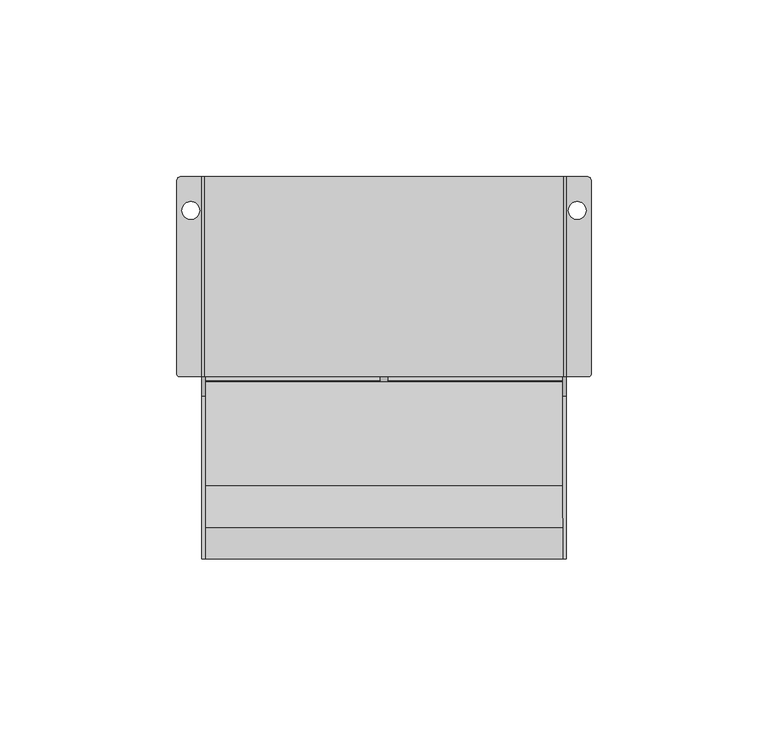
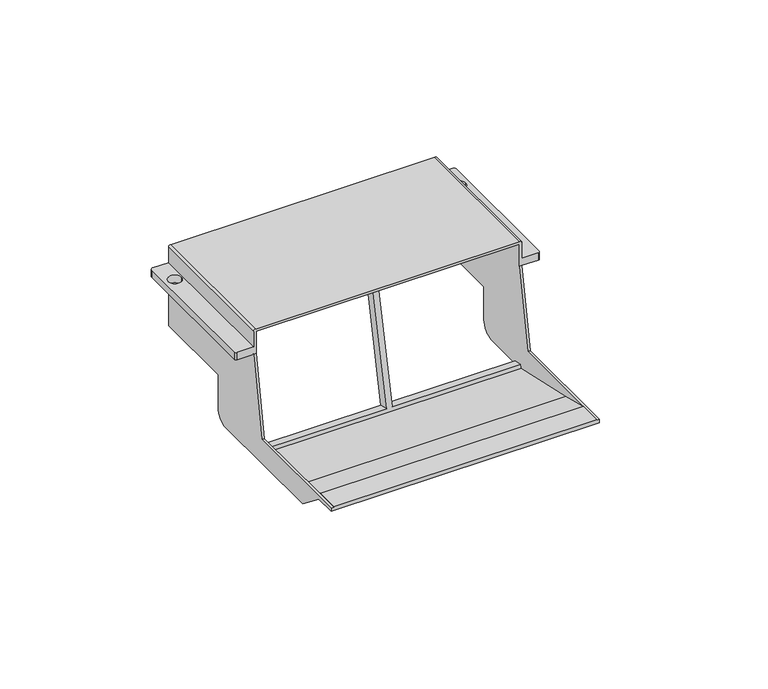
"""IFC4 building model written with IfcOpenShell, lengths in millimetres: proxy geometry, Electrical_Installation_Hager_VE-EE_Device-casing-for-data-systems-technology-for-hinged-cover : Dev. cas. for KDQ08/E04 f 2 Inst.dev. R 50."""

from ifc_helpers import new_model, si_unit, frame, origin, place, context, project, spatial, polyline, circle_curve, source, transform, mapped, element, save
from ifc_brep_helpers import plane_surface, cylinder_surface, revolved_surface, advanced_brep


def electrical_fixtures_d6e92de2(model_context):
    return source(origin(), model_context, "Body", "AdvancedBrep", [
        advanced_brep(
        [(-51.5, -3.5384615, 18.4167587), (-51.5, -3.5384615, 5.0), (-51.5, -8.5384615, 0.0), (-51.5, -59.5788701, 0.0), (-51.5, -70.458374, 8.5), (-51.5, -78.5384615, 8.5), (-51.5, -78.5384615, 9.8), (-51.5, -32.5398633, 9.8), (-51.5, -27.0384615, 41.0), (-51.5, 29.4615385, 41.0), (-51.5, 29.4615385, 18.4167587), (-51.5, -27.0384615, 50.2664242), (-51.5, 29.4615385, 50.2664242), (-51.5, 29.4615385, 44.0), (-51.5, -27.0384615, 44.0), (-50.5, -27.0384615, 41.0), (-50.5, -32.5398633, 9.8), (-50.5, -68.8627744, 9.8), (-50.5, -57.7784741, 6.8299707), (-50.5, -28.4340461, 0.59262), (-50.5, -28.1533653, 1.9131192), (-50.5, -24.2407749, 1.0814725), (-50.5, -24.470649, 0.0), (-50.5, -8.5384615, 0.0), (-50.5, -3.5384615, 5.0), (-50.5, -3.5384615, 18.4167587), (-50.5, 29.4615385, 18.4167587), (-50.5, 29.4615385, 50.0), (-50.5, -13.8428209, 50.0), (-50.5, -14.4065519, 47.347854), (-50.5, -18.3191423, 48.1795007), (-50.5, -17.9321833, 50.0), (-50.5, -27.0384615, 50.0), (-50.5, -70.458374, 8.5), (-50.5, -68.5384615, 7.0), (-50.5, -68.5384615, 8.5), (-50.5, -59.5788701, 0.0), (-50.5, -35.6060508, 0.0), (-50.5, -78.5384615, 9.8), (51.5, -78.5384615, 8.5), (51.5, -78.5384615, 9.8), (50.5, -78.5384615, 9.8), (50.5, -78.5384615, 10.0), (-50.5, -78.5384615, 10.0), (50.5, -68.5384615, 8.5), (50.5, -70.458374, 8.5), (51.5, -70.458374, 8.5), (50.5, -24.470649, 0.0), (50.5, -8.5384615, 0.0), (51.5, -8.5384615, 0.0), (51.5, -59.5788701, 0.0), (50.5, -59.5788701, 0.0), (50.5, -35.6060508, 0.0), (-50.7664242, -27.0384615, 51.0), (-57.8228614, -27.0384615, 44.0), (-57.8228614, -27.0384615, 41.0), (50.5, -27.0384615, 50.0), (50.5, -27.0384615, 41.0), (51.5, -27.0384615, 41.0), (57.8228614, -27.0384615, 41.0), (57.8228614, -27.0384615, 44.0), (51.5, -27.0384615, 44.0), (51.5, -27.0384615, 50.224034), (50.724034, -27.0384615, 51.0), (-50.7664242, 29.4615385, 51.0), (50.724034, 29.4615385, 51.0), (51.5, 29.4615385, 50.224034), (51.5, 29.4615385, 44.0), (57.5290949, 29.4615385, 44.0), (57.5290949, 29.4615385, 41.0), (51.5, 29.4615385, 41.0), (51.5, 29.4615385, 18.4167587), (50.5, 29.4615385, 18.4167587), (50.5, 29.4615385, 50.0), (-57.5290949, 29.4615385, 41.0), (-57.5290949, 29.4615385, 44.0), (51.5, -32.5398633, 9.8), (51.5, -3.5384615, 5.0), (51.5, -3.5384615, 18.4167587), (50.5, -17.9321833, 50.0), (50.5, -13.8428209, 50.0), (50.5, -68.5384615, 7.0), (50.5, -3.5384615, 18.4167587), (50.5, -3.5384615, 5.0), (50.5, -24.2407749, 1.0814725), (50.5, -28.1533653, 1.9131192), (50.5, -28.4340461, 0.59262), (50.5, -57.7784741, 6.8299707), (50.5, -68.8627744, 9.8), (50.5, -32.5398633, 9.8), (50.5, -18.3191423, 48.1795007), (50.5, -14.4065519, 47.347854), (50.5, -69.6091846, 10.0), (-50.5, -69.6091846, 10.0), (-1.05, -24.2407749, 1.0814725), (-1.05, -14.4065519, 47.347854), (1.05, -14.4065519, 47.347854), (1.05, -24.2407749, 1.0814725), (-1.05, -28.1533653, 1.9131192), (1.05, -28.1533653, 1.9131192), (1.05, -18.3191423, 48.1795007), (-1.05, -18.3191423, 48.1795007), (58.5, -26.3613229, 44.0), (58.5, 28.4906334, 44.0), (57.1060285, 19.948617, 44.0), (52.094829, 19.948617, 44.0), (-58.5, 28.4906334, 44.0), (-58.5, -26.3613229, 44.0), (-57.1060285, 19.948617, 44.0), (-52.094829, 19.948617, 44.0), (-58.5, -26.3613229, 41.0), (-58.5, 28.4906334, 41.0), (-57.1060285, 19.948617, 41.0), (-52.094829, 19.948617, 41.0), (58.5, 28.4906334, 41.0), (58.5, -26.3613229, 41.0), (57.1060285, 19.948617, 41.0), (52.094829, 19.948617, 41.0)],
        [
            (0, 1),
            (1, 2, circle_curve(frame((-51.5, -8.5384615, 5.0), z_axis=(-1.0, 0.0, 0.0), x_axis=(0.0, -1.0, 0.0)), 5.0)),
            (2, 3),
            (3, 4),
            (4, 5),
            (5, 6),
            (6, 7),
            (7, 8),
            (8, 9),
            (9, 10),
            (10, 0),
            (11, 12),
            (12, 13),
            (13, 14),
            (14, 11),
            (15, 16),
            (16, 17),
            (17, 18),
            (18, 19),
            (19, 20),
            (20, 21),
            (21, 22),
            (22, 23),
            (23, 24, circle_curve(frame((-50.5, -8.5384615, 5.0), z_axis=(1.0, 0.0, 0.0), x_axis=(0.0, -1.0, 0.0)), 5.0)),
            (24, 25),
            (25, 26),
            (26, 27),
            (27, 28),
            (28, 29),
            (29, 30),
            (30, 31),
            (31, 32),
            (32, 15),
            (33, 34),
            (34, 35),
            (35, 33),
            (34, 36),
            (36, 37),
            (37, 34),
            (7, 16),
            (15, 8),
            (6, 38),
            (38, 17),
            (5, 39),
            (39, 40),
            (40, 41),
            (41, 42),
            (42, 43),
            (43, 38),
            (4, 33),
            (35, 44),
            (44, 45),
            (45, 46),
            (46, 39),
            (3, 36),
            (2, 23),
            (22, 47),
            (47, 48),
            (48, 49),
            (49, 50),
            (50, 51),
            (51, 52),
            (52, 37),
            (1, 24),
            (0, 25),
            (53, 11, circle_curve(frame((-50.7664242, -27.0384615, 50.2664242), z_axis=(0.0, -1.0, 0.0), x_axis=(1.0, 0.0, 0.0)), 0.7335758)),
            (14, 54),
            (54, 55),
            (55, 8),
            (32, 56),
            (56, 57),
            (57, 58),
            (58, 59),
            (59, 60),
            (60, 61),
            (61, 62),
            (62, 63, circle_curve(frame((50.724034, -27.0384615, 50.224034), z_axis=(0.0, -1.0, 0.0), x_axis=(1.0, 0.0, 0.0)), 0.775966)),
            (63, 53),
            (64, 65),
            (65, 66, circle_curve(frame((50.724034, 29.4615385, 50.224034), z_axis=(0.0, 1.0, 0.0), x_axis=(1.0, 0.0, 0.0)), 0.775966)),
            (66, 67),
            (67, 68),
            (68, 69),
            (69, 70),
            (70, 71),
            (71, 72),
            (72, 73),
            (73, 27),
            (26, 10),
            (9, 74),
            (74, 75),
            (75, 13),
            (12, 64, circle_curve(frame((-50.7664242, 29.4615385, 50.2664242), z_axis=(0.0, 1.0, 0.0), x_axis=(1.0, 0.0, 0.0)), 0.7335758)),
            (53, 64),
            (66, 62),
            (61, 67),
            (58, 76),
            (76, 40),
            (46, 50),
            (49, 77, circle_curve(frame((51.5, -8.5384615, 5.0), z_axis=(1.0, 0.0, 0.0), x_axis=(0.0, -1.0, 0.0)), 5.0)),
            (77, 78),
            (78, 71),
            (70, 58),
            (65, 63),
            (31, 79),
            (79, 56),
            (73, 80),
            (80, 28),
            (51, 81),
            (81, 52),
            (72, 82),
            (82, 83),
            (83, 48, circle_curve(frame((50.5, -8.5384615, 5.0), z_axis=(-1.0, 0.0, 0.0), x_axis=(0.0, -1.0, 0.0)), 5.0)),
            (47, 84),
            (84, 85),
            (85, 86),
            (86, 87),
            (87, 88),
            (88, 89),
            (89, 57),
            (79, 90),
            (90, 91),
            (91, 80),
            (81, 45),
            (44, 81),
            (78, 82),
            (92, 42),
            (41, 88),
            (88, 92),
            (43, 93),
            (93, 17),
            (81, 34),
            (21, 94),
            (94, 95),
            (95, 29),
            (91, 96),
            (96, 97),
            (97, 84),
            (20, 98),
            (98, 94),
            (97, 99),
            (99, 85),
            (19, 86),
            (99, 100),
            (100, 90),
            (30, 101),
            (101, 98),
            (18, 87),
            (93, 92),
            (95, 101),
            (100, 96),
            (89, 76),
            (83, 77),
            (60, 102, circle_curve(frame((57.8228614, -26.3613229, 44.0), z_axis=(0.0, 0.0, 1.0), x_axis=(-1.0, 0.0, 0.0)), 0.6771386)),
            (102, 103),
            (103, 68, circle_curve(frame((57.5290949, 28.4906334, 44.0), z_axis=(0.0, 0.0, 1.0), x_axis=(-1.0, 0.0, 0.0)), 0.9709051)),
            (104, 105, circle_curve(frame((54.6004287, 19.948617, 44.0), z_axis=(0.0, 0.0, -1.0), x_axis=(-1.0, 0.0, 0.0)), 2.5055998)),
            (105, 104, circle_curve(frame((54.6004287, 19.948617, 44.0), z_axis=(0.0, 0.0, -1.0), x_axis=(-1.0, 0.0, 0.0)), 2.5055998)),
            (75, 106, circle_curve(frame((-57.5290949, 28.4906334, 44.0), z_axis=(0.0, 0.0, 1.0), x_axis=(1.0, 0.0, 0.0)), 0.9709051)),
            (106, 107),
            (107, 54, circle_curve(frame((-57.8228614, -26.3613229, 44.0), z_axis=(0.0, 0.0, 1.0), x_axis=(1.0, 0.0, 0.0)), 0.6771386)),
            (108, 109, circle_curve(frame((-54.6004287, 19.948617, 44.0), z_axis=(0.0, 0.0, -1.0), x_axis=(1.0, 0.0, 0.0)), 2.5055998)),
            (109, 108, circle_curve(frame((-54.6004287, 19.948617, 44.0), z_axis=(0.0, 0.0, -1.0), x_axis=(1.0, 0.0, 0.0)), 2.5055998)),
            (55, 110, circle_curve(frame((-57.8228614, -26.3613229, 41.0), z_axis=(0.0, 0.0, -1.0), x_axis=(1.0, 0.0, 0.0)), 0.6771386)),
            (110, 111),
            (111, 74, circle_curve(frame((-57.5290949, 28.4906334, 41.0), z_axis=(0.0, 0.0, -1.0), x_axis=(1.0, 0.0, 0.0)), 0.9709051)),
            (112, 113, circle_curve(frame((-54.6004287, 19.948617, 41.0), z_axis=(0.0, 0.0, 1.0), x_axis=(1.0, 0.0, 0.0)), 2.5055998)),
            (113, 112, circle_curve(frame((-54.6004287, 19.948617, 41.0), z_axis=(0.0, 0.0, 1.0), x_axis=(1.0, 0.0, 0.0)), 2.5055998)),
            (69, 114, circle_curve(frame((57.5290949, 28.4906334, 41.0), z_axis=(0.0, 0.0, -1.0), x_axis=(-1.0, 0.0, 0.0)), 0.9709051)),
            (114, 115),
            (115, 59, circle_curve(frame((57.8228614, -26.3613229, 41.0), z_axis=(0.0, 0.0, -1.0), x_axis=(-1.0, 0.0, 0.0)), 0.6771386)),
            (116, 117, circle_curve(frame((54.6004287, 19.948617, 41.0), z_axis=(0.0, 0.0, 1.0), x_axis=(-1.0, 0.0, 0.0)), 2.5055998)),
            (117, 116, circle_curve(frame((54.6004287, 19.948617, 41.0), z_axis=(0.0, 0.0, 1.0), x_axis=(-1.0, 0.0, 0.0)), 2.5055998)),
            (111, 106),
            (110, 107),
            (115, 102),
            (114, 103),
            (108, 112),
            (113, 109),
            (104, 116),
            (117, 105),
        ],
        [
            plane_surface(frame((-51.5, -27.0384615, 18.4167587), z_axis=(-1.0, 0.0, 0.0), x_axis=(0.0, 1.0, 0.0))),
            plane_surface(frame((-50.5, -27.0384615, 18.4167587), z_axis=(1.0, 0.0, 0.0), x_axis=(0.0, -1.0, 0.0))),
            plane_surface(frame((-51.5, -32.5398633, 9.8), z_axis=(0.0, -0.9848077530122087, 0.1736481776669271), x_axis=(1.0, 0.0, 0.0))),
            plane_surface(frame((-51.5, -78.5384615, 9.8), z_axis=(0.0, 0.0, 1.0), x_axis=(1.0, 0.0, 0.0))),
            plane_surface(frame((-51.5, -78.5384615, 8.5), z_axis=(0.0, -1.0, 0.0), x_axis=(1.0, 0.0, 0.0))),
            plane_surface(frame((-51.5, -70.458374, 8.5), z_axis=(0.0, 0.0, -1.0), x_axis=(1.0, 0.0, 0.0))),
            plane_surface(frame((-51.5, -59.5788701, 0.0), z_axis=(0.0, -0.6156614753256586, -0.7880107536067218), x_axis=(1.0, 0.0, 0.0))),
            plane_surface(frame((-51.5, -8.5384615, 0.0), z_axis=(0.0, 0.0, -1.0), x_axis=(1.0, 0.0, 0.0))),
            cylinder_surface(frame((-50.5, -8.5384615, 5.0), z_axis=(-1.0, 0.0, 0.0), x_axis=(0.0, -1.0, 0.0)), 5.0),
            plane_surface(frame((-51.5, -3.5384615, 18.4167587), z_axis=(0.0, 1.0, 0.0), x_axis=(1.0, 0.0, 0.0))),
            plane_surface(frame((-50.0328483, -27.0384615, 50.2664242), z_axis=(0.0, -1.0, 0.0), x_axis=(0.0, 0.0, 1.0))),
            plane_surface(frame((-50.0328483, 29.4615385, 50.2664242), z_axis=(0.0, 1.0, 0.0), x_axis=(0.0, 0.0, -1.0))),
            cylinder_surface(frame((-50.7664242, 29.4615385, 50.2664242), z_axis=(0.0, -1.0, 0.0), x_axis=(1.0, 0.0, 0.0)), 0.7335758),
            plane_surface(frame((51.5, -27.0384615, 18.4167587), z_axis=(1.0, 0.0, 0.0), x_axis=(0.0, 1.0, 0.0))),
            cylinder_surface(frame((50.724034, 29.4615385, 50.224034), z_axis=(0.0, -1.0, 0.0), x_axis=(1.0, 0.0, 0.0)), 0.775966),
            plane_surface(frame((50.724034, -27.0384615, 51.0), z_axis=(0.0, 0.0, 1.0), x_axis=(0.0, 1.0, 0.0))),
            plane_surface(frame((-51.5, -27.0384615, 18.4167587), z_axis=(0.0, 0.0, -1.0), x_axis=(0.0, 1.0, 0.0))),
            plane_surface(frame((-50.5, -27.0384615, 50.0), z_axis=(0.0, 0.0, -1.0), x_axis=(0.0, 1.0, 0.0))),
            plane_surface(frame((50.5, -27.0384615, 50.0), z_axis=(-1.0, 0.0, 0.0), x_axis=(0.0, 1.0, 0.0))),
            plane_surface(frame((50.5, -27.0384615, 18.4167587), z_axis=(0.0, 0.0, -1.0), x_axis=(0.0, 1.0, 0.0))),
            plane_surface(frame((50.5, -53.5384615, 3.8116516), z_axis=(1.0, 0.0, 0.0), x_axis=(0.0, 0.9781476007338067, -0.2079116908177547))),
            plane_surface(frame((-50.5, -53.5384615, 3.8116516), z_axis=(-1.0, 0.0, 0.0), x_axis=(0.0, -0.9781476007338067, 0.2079116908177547))),
            plane_surface(frame((50.5, -68.5384615, 7.0), z_axis=(0.0, -0.2079116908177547, -0.9781476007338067), x_axis=(-1.0, 0.0, 0.0))),
            plane_surface(frame((50.5, -24.470649, 0.0), z_axis=(0.0, 0.9781476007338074, -0.20791169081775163), x_axis=(-1.0, 0.0, 0.0))),
            plane_surface(frame((50.5, -24.2407749, 1.0814725), z_axis=(0.0, 0.20791169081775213, 0.9781476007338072), x_axis=(-1.0, 0.0, 0.0))),
            plane_surface(frame((50.5, -28.1533653, 1.9131192), z_axis=(0.0, -0.9781476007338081, 0.20791169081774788), x_axis=(-1.0, 0.0, 0.0))),
            plane_surface(frame((50.5, -28.4340461, 0.59262), z_axis=(0.0, 0.20791169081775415, 0.9781476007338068), x_axis=(-1.0, 0.0, 0.0))),
            plane_surface(frame((50.5, -57.7784741, 6.8299707), z_axis=(0.0, 0.2588190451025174, 0.9659258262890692), x_axis=(-1.0, 0.0, 0.0))),
            plane_surface(frame((50.5, -69.6091846, 10.0), z_axis=(0.0, 0.0, 1.0), x_axis=(-1.0, 0.0, 0.0))),
            plane_surface(frame((50.5, -68.5384615, 8.5), z_axis=(0.0, -1.0, 0.0), x_axis=(-1.0, 0.0, 0.0))),
            plane_surface(frame((50.5, -18.3191423, 48.1795007), z_axis=(0.0, -0.2079116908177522, -0.9781476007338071), x_axis=(-1.0, 0.0, 0.0))),
            plane_surface(frame((1.05, -24.2407749, 1.0814725), z_axis=(1.0000000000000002, 0.0, 0.0), x_axis=(0.0, 0.9781476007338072, -0.20791169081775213))),
            plane_surface(frame((-1.05, -24.2407749, 1.0814725), z_axis=(-1.0000000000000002, 0.0, 0.0), x_axis=(0.0, -0.9781476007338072, 0.20791169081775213))),
            plane_surface(frame((51.5, -27.0384615, 41.0), z_axis=(0.0, -0.9848077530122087, 0.1736481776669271), x_axis=(-1.0, 0.0, 0.0))),
            plane_surface(frame((51.5, -32.5398633, 9.8), z_axis=(0.0, 0.0, 1.0), x_axis=(-1.0, 0.0, 0.0))),
            plane_surface(frame((51.5, -70.458374, 8.5), z_axis=(0.0, -0.6156614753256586, -0.7880107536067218), x_axis=(-1.0, 0.0, 0.0))),
            cylinder_surface(frame((50.5, -8.5384615, 5.0), z_axis=(1.0, 0.0, 0.0), x_axis=(0.0, -1.0, 0.0)), 5.0),
            plane_surface(frame((51.5, -3.5384615, 5.0), z_axis=(0.0, 1.0, 0.0), x_axis=(-1.0, 0.0, 0.0))),
            plane_surface(frame((-51.5, 29.4615385, 44.0), z_axis=(0.0, 0.0, 1.0), x_axis=(0.0, 1.0, 0.0))),
            plane_surface(frame((-51.5, 29.4615385, 41.0), z_axis=(0.0, 0.0, -1.0), x_axis=(0.0, -1.0, 0.0))),
            cylinder_surface(frame((-57.5290949, 28.4906334, 41.0), z_axis=(0.0, 0.0, 1.0), x_axis=(1.0, 0.0, 0.0)), 0.9709051),
            plane_surface(frame((-58.5, 28.4906334, 44.0), z_axis=(-1.0, 0.0, 0.0), x_axis=(0.0, 0.0, -1.0))),
            cylinder_surface(frame((-57.8228614, -26.3613229, 41.0), z_axis=(0.0, 0.0, 1.0), x_axis=(1.0, 0.0, 0.0)), 0.6771386),
            cylinder_surface(frame((57.8228614, -26.3613229, 9.8), z_axis=(0.0, 0.0, 1.0), x_axis=(-1.0, 0.0, 0.0)), 0.6771386),
            plane_surface(frame((58.5, -26.3613229, 44.0), z_axis=(1.0, 0.0, 0.0), x_axis=(0.0, 0.0, -1.0))),
            cylinder_surface(frame((57.5290949, 28.4906334, 9.8), z_axis=(0.0, 0.0, 1.0), x_axis=(-1.0, 0.0, 0.0)), 0.9709051),
            revolved_surface(polyline([(-52.0948289, 19.948617, 41.0), (-52.0948289, 19.948617, 44.0)]), (-54.6004287, 19.948617, 9.8), (0.0, 0.0, -1.0)),
            revolved_surface(polyline([(52.0948289, 19.948617, 41.0), (52.0948289, 19.948617, 44.0)]), (54.6004287, 19.948617, 9.8), (0.0, 0.0, -1.0)),
        ],
        [
            (0, [[1, 2, 3, 4, 5, 6, 7, 8, 9, 10, 11]]),
            (0, [[12, 13, 14, 15]]),
            (1, [[16, 17, 18, 19, 20, 21, 22, 23, 24, 25, 26, 27, 28, 29, 30, 31, 32, 33]]),
            (1, [[34, 35, 36]]),
            (1, [[37, 38, 39]]),
            (2, [[-8, 40, -16, 41]]),
            (3, [[-7, 42, 43, -17, -40]]),
            (4, [[-6, 44, 45, 46, 47, 48, 49, -42]]),
            (5, [[-5, 50, -36, 51, 52, 53, 54, -44]]),
            (6, [[-4, 55, -37, -34, -50]]),
            (7, [[-3, 56, -23, 57, 58, 59, 60, 61, 62, 63, -38, -55]]),
            (8, [[-2, 64, -24, -56]]),
            (9, [[-1, 65, -25, -64]]),
            (10, [[66, -15, 67, 68, 69, -41, -33, 70, 71, 72, 73, 74, 75, 76, 77, 78]]),
            (11, [[79, 80, 81, 82, 83, 84, 85, 86, 87, 88, -27, 89, -10, 90, 91, 92, -13, 93]]),
            (12, [[-66, 94, -93, -12]]),
            (13, [[95, -76, 96, -81]]),
            (13, [[97, 98, -45, -54, 99, -60, 100, 101, 102, -85, 103]]),
            (14, [[-77, -95, -80, 104]]),
            (15, [[-78, -104, -79, -94]]),
            (16, [[-89, -26, -65, -11]]),
            (17, [[-70, -32, 105, 106]]),
            (17, [[-88, 107, 108, -28]]),
            (18, [[-62, 109, 110]]),
            (18, [[-87, 111, 112, 113, -58, 114, 115, 116, 117, 118, 119, 120, -71, -106, 121, 122, 123, -107]]),
            (18, [[124, -52, 125]]),
            (19, [[-86, -102, 126, -111]]),
            (20, [[127, -47, 128, 129]]),
            (21, [[130, 131, -43, -49]]),
            (22, [[132, -39, -63, -110]]),
            (23, [[-57, -22, 133, 134, 135, -29, -108, -123, 136, 137, 138, -114]]),
            (24, [[-21, 139, 140, -133]]),
            (24, [[-138, 141, 142, -115]]),
            (25, [[143, -116, -142, 144, 145, -121, -105, -31, 146, 147, -139, -20]]),
            (26, [[-143, -19, 148, -117]]),
            (27, [[-148, -18, -131, 149, -129, -118]]),
            (28, [[-127, -149, -130, -48]]),
            (29, [[-132, -125, -51, -35]]),
            (30, [[-30, -135, 150, -146]]),
            (30, [[-122, -145, 151, -136]]),
            (31, [[-137, -151, -144, -141]]),
            (32, [[-147, -150, -134, -140]]),
            (33, [[-97, -72, -120, 152]]),
            (34, [[-98, -152, -119, -128, -46]]),
            (35, [[-99, -53, -124, -109, -61]]),
            (36, [[-100, -59, -113, 153]]),
            (37, [[-101, -153, -112, -126]]),
            (38, [[-75, 154, 155, 156, -82, -96], [157, 158]]),
            (38, [[-92, 159, 160, 161, -67, -14], [162, 163]]),
            (39, [[-69, 164, 165, 166, -90, -9], [167, 168]]),
            (39, [[-84, 169, 170, 171, -73, -103], [172, 173]]),
            (40, [[-159, -91, -166, 174]]),
            (41, [[-160, -174, -165, 175]]),
            (42, [[-161, -175, -164, -68]]),
            (43, [[-154, -74, -171, 176]]),
            (44, [[-155, -176, -170, 177]]),
            (45, [[-156, -177, -169, -83]]),
            (46, [[-162, 178, -168, 179]]),
            (46, [[-163, -179, -167, -178]]),
            (47, [[-157, 180, -173, 181]]),
            (47, [[-158, -181, -172, -180]]),
        ],
    ),
    ])


if __name__ == "__main__":
    model = new_model("IFC4")
    model_context = context("Model", 3, world=origin())
    ifc_project = project(units=[si_unit("LENGTHUNIT", "METRE", prefix="MILLI")], contexts=[model_context])
    site = spatial("IfcSite", under=ifc_project)
    building = spatial("IfcBuilding", under=site)
    placement = place(None, origin())
    electrical_fixtures_shape = electrical_fixtures_d6e92de2(model_context)
    element("IfcBuildingElementProxy", 1, Name="Electrical_Installation_Hager_VE-EE_Device-casing-for-data-systems-technology-for-hinged-cover : Dev. cas. for KDQ08/E04 f 2 Inst.dev. R 50", ObjectType="Electrical_Installation_Hager_VE-EE_Device-casing-for-data-systems-technology-for-hinged-cover : Dev. cas. for KDQ08/E04 f 2 Inst.dev. R 50", at=placement, inside=building, context=model_context, shape_type="MappedRepresentation", body=[
        mapped(electrical_fixtures_shape, transform((0.0, 0.0, 0.0), x_axis=(1.0, 0.0, 0.0), y_axis=(0.0, 1.0, 0.0), z_axis=(0.0, 0.0, 1.0))),
    ])
    save(model, "model.ifc")
